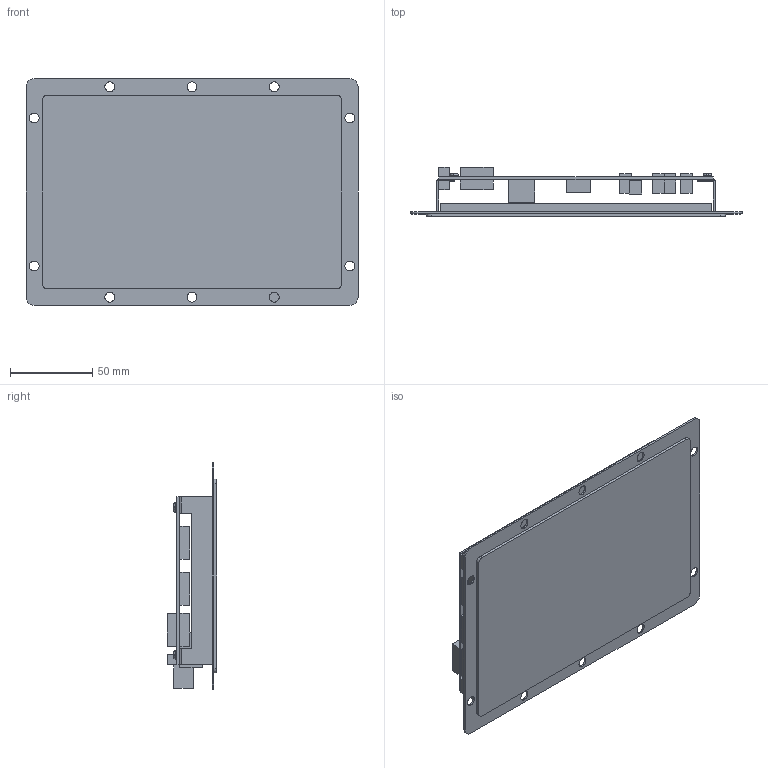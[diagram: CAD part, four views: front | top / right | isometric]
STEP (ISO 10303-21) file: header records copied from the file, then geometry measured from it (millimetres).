
FILE_DESCRIPTION(/* description */ (''),/* implementation_level */ '2;1');
FILE_NAME(/* name */ '/Users/appleid/Google Drive/ines_joerg/Hauskauf/Zeichnungen/Fusion/Display Smarthome v9.step',/* time_stamp */ '2020-09-15T14:10:50+02:00',/* author */ (''),/* organization */ (''),/* preprocessor_version */ 'ST-DEVELOPER v18.1',/* originating_system */ 'Autodesk Translation Framework v9.3.0.1241',/* authorisation */ '');
FILE_SCHEMA (('AUTOMOTIVE_DESIGN { 1 0 10303 214 3 1 1 }'));
Length unit declared in the file: millimetre
Products named in the file (12): Display Smarthome; GlasScheibe; DruckAufGlas; DisplayModul; MetallRahmen; Platine; SteckerIO; LANStecker; USBStecker; Mäuseklavier; Phoenex; Schraube
Assembly tree (22 placements, depth 2):
  Display Smarthome
    GlasScheibe
    DruckAufGlas
    DisplayModul
    MetallRahmen
    Platine
    SteckerIO  x6
    LANStecker
    USBStecker
    Mäuseklavier
    Phoenex  x4
    Schraube  x4
Bounding box: 202 x 30.32 x 138 mm (x, y, z)
Volume: 201545.1 mm3; surface area: 171386.9 mm2
Topology: 22 solids, 22 shells, 254 faces, 626 edges, 416 vertices
Faces by surface type: plane 212, cylinder 38, torus 4
Full cylindrical faces by diameter (mm): 5 x4, 6 x10
Entity records: 4934 total; most frequent: CARTESIAN_POINT 845, DIRECTION 791, ORIENTED_EDGE 736, EDGE_CURVE 368, LINE 279, VECTOR 279, AXIS2_PLACEMENT_3D 256, VERTEX_POINT 244
